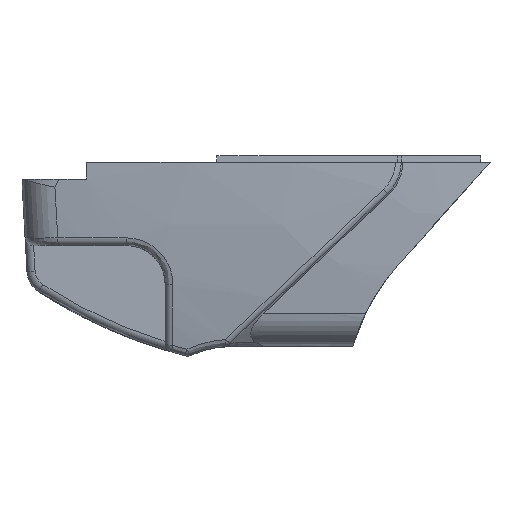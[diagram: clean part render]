
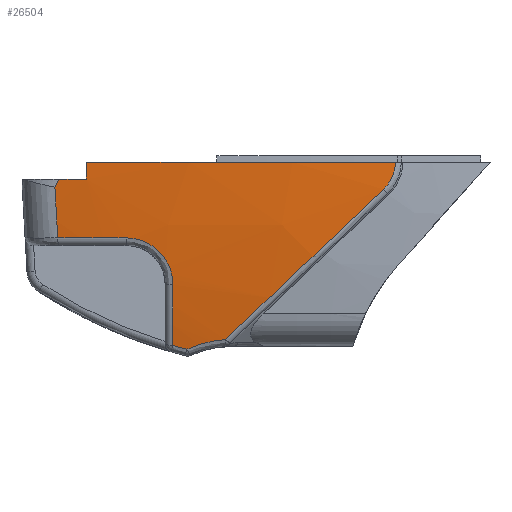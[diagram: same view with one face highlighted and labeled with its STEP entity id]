
A CAD part, left-side view. The second image highlights one B-rep face of the part: STEP entity #26504.
In plain terms, the highlighted free-form (B-spline) face has degree [3, 3] with [4, 4] control points.
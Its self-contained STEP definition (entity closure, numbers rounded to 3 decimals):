
#5399=CARTESIAN_POINT('',(-60.479,12.15,-32.2));
#5400=CARTESIAN_POINT('',(-60.479,12.15,
-32.644));
#5401=CARTESIAN_POINT('',(-60.476,12.15,
-33.533));
#5402=CARTESIAN_POINT('',(-60.464,12.15,
-34.867));
#5403=CARTESIAN_POINT('',(-60.451,12.15,-35.756));
#5404=CARTESIAN_POINT('',(-60.443,12.15,-36.2));
#5518=CARTESIAN_POINT('',(-61.742,-61.166,
-32.2));
#5523=CARTESIAN_POINT('',(304.183,-30.798,
-32.2));
#5524=DIRECTION('',(0.,0.,-1.));
#5525=DIRECTION('',(-0.997,-0.083,0.));
#5526=AXIS2_PLACEMENT_3D('',#5523,#5524,#5525);
#9055=CARTESIAN_POINT('',(-58.332,-11.703,
-76.557));
#9106=CARTESIAN_POINT('',(-60.781,2.682,
-50.151));
#9107=CARTESIAN_POINT('',(-60.848,1.951,
-50.152));
#9108=CARTESIAN_POINT('',(-60.965,0.519,
-50.292));
#9109=CARTESIAN_POINT('',(-61.089,-1.572,
-50.928));
#9110=CARTESIAN_POINT('',(-61.154,-3.499,
-51.958));
#9111=CARTESIAN_POINT('',(-61.156,-5.186,
-53.347));
#9112=CARTESIAN_POINT('',(-61.094,-6.575,
-55.041));
#9113=CARTESIAN_POINT('',(-60.966,-7.601,
-56.973));
#9114=CARTESIAN_POINT('',(-60.777,-8.239,
-59.077));
#9115=CARTESIAN_POINT('',(-60.616,-8.378,
-60.511));
#9116=CARTESIAN_POINT('',(-60.526,-8.378,
-61.243));
#9713=CARTESIAN_POINT('',(304.183,-30.798,
-36.2));
#9714=DIRECTION('',(0.,0.,-1.));
#9715=DIRECTION('',(-0.993,0.117,0.));
#9716=AXIS2_PLACEMENT_3D('',#9713,#9714,#9715);
#9746=CARTESIAN_POINT('',(-61.742,-61.166,
-32.2));
#9747=CARTESIAN_POINT('',(-61.743,-61.14,
-33.403));
#9748=CARTESIAN_POINT('',(-61.767,-60.605,
-35.797));
#9749=CARTESIAN_POINT('',(-61.833,-59.19,
-37.8));
#9750=CARTESIAN_POINT('',(-61.876,-58.318,
-38.625));
#9755=CARTESIAN_POINT('',(-61.876,-58.318,
-38.625));
#9756=CARTESIAN_POINT('',(-62.08,-54.14,
-42.596));
#9757=CARTESIAN_POINT('',(-62.149,-45.766,
-50.538));
#9758=CARTESIAN_POINT('',(-61.229,-33.249,
-62.43));
#9759=CARTESIAN_POINT('',(-59.938,-24.946,
-70.31));
#9760=CARTESIAN_POINT('',(-59.124,-20.821,
-74.234));
#9765=CARTESIAN_POINT('',(-58.332,-11.703,
-76.557));
#9766=CARTESIAN_POINT('',(-58.328,-10.591,
-76.268));
#9767=CARTESIAN_POINT('',(-58.321,-9.482,
-75.963));
#9768=CARTESIAN_POINT('',(-58.313,-8.379,
-75.641));
#9773=CARTESIAN_POINT('',(177.622,-8.379,
-31.999));
#9774=DIRECTION('',(0.,1.,0.));
#9775=DIRECTION('',(-0.983,0.,-0.182));
#9776=AXIS2_PLACEMENT_3D('',#9773,#9774,#9775);
#9781=CARTESIAN_POINT('',(304.183,-30.798,
-50.151));
#9782=DIRECTION('',(0.,0.,-1.));
#9783=DIRECTION('',(-0.996,0.091,0.));
#9784=AXIS2_PLACEMENT_3D('',#9781,#9782,#9783);
#9789=CARTESIAN_POINT('',(178.784,19.852,-33.885));
#9790=DIRECTION('',(0.,0.998,-0.057));
#9791=DIRECTION('',(-0.998,-0.004,-0.068));
#9792=AXIS2_PLACEMENT_3D('',#9789,#9790,#9791);
#9797=CARTESIAN_POINT('',(-59.444,19.614,
-38.115));
#9798=CARTESIAN_POINT('',(-59.464,19.509,
-37.903));
#9799=CARTESIAN_POINT('',(-59.503,19.301,
-37.478));
#9800=CARTESIAN_POINT('',(-59.56,18.991,
-36.839));
#9801=CARTESIAN_POINT('',(-59.596,18.786,
-36.413));
#9802=CARTESIAN_POINT('',(-59.614,18.684,
-36.2));
#9898=CARTESIAN_POINT('',(-58.332,-11.703,
-76.557));
#9899=CARTESIAN_POINT('',(-58.463,-12.662,
-76.127));
#9900=CARTESIAN_POINT('',(-58.697,-14.617,
-75.381));
#9901=CARTESIAN_POINT('',(-58.963,-17.683,
-74.6));
#9902=CARTESIAN_POINT('',(-59.08,-19.766,
-74.317));
#9903=CARTESIAN_POINT('',(-59.124,-20.821,
-74.234));
#18519=CARTESIAN_POINT('',(-60.479,12.15,-32.2));
#18521=VERTEX_POINT('',#18519);
#18547=VERTEX_POINT('',#5518);
#18685=CARTESIAN_POINT('',(-59.124,-20.821,
-74.234));
#18686=VERTEX_POINT('',#18685);
#18687=VERTEX_POINT('',#9055);
#18688=CARTESIAN_POINT('',(-58.313,-8.379,
-75.641));
#18689=VERTEX_POINT('',#18688);
#18694=CARTESIAN_POINT('',(-60.526,-8.378,
-61.243));
#18695=VERTEX_POINT('',#18694);
#18788=VERTEX_POINT('',#5404);
#18834=CARTESIAN_POINT('',(-59.614,18.684,-36.2));
#18835=VERTEX_POINT('',#18834);
#18844=VERTEX_POINT('',#9750);
#18845=VERTEX_POINT('',#9106);
#18846=CARTESIAN_POINT('',(-58.923,18.938,
-50.151));
#18847=VERTEX_POINT('',#18846);
#18848=CARTESIAN_POINT('',(-59.444,19.618,
-38.115));
#18849=VERTEX_POINT('',#18848);
#26467=CARTESIAN_POINT('',(-61.604,-62.78,
-31.308));
#26468=CARTESIAN_POINT('',(-61.648,-62.784,
-46.799));
#26469=CARTESIAN_POINT('',(-60.205,-62.658,
-62.222));
#26470=CARTESIAN_POINT('',(-57.288,-62.403,
-77.433));
#26471=CARTESIAN_POINT('',(-64.054,-34.75,
-31.308));
#26472=CARTESIAN_POINT('',(-64.099,-34.751,
-46.799));
#26473=CARTESIAN_POINT('',(-62.646,-34.735,
-62.222));
#26474=CARTESIAN_POINT('',(-59.71,-34.704,
-77.433));
#26475=CARTESIAN_POINT('',(-63.281,-6.624,
-31.308));
#26476=CARTESIAN_POINT('',(-63.326,-6.621,
-46.799));
#26477=CARTESIAN_POINT('',(-61.876,-6.717,
-62.222));
#26478=CARTESIAN_POINT('',(-58.946,-6.91,
-77.433));
#26479=CARTESIAN_POINT('',(-59.295,21.228,
-31.308));
#26480=CARTESIAN_POINT('',(-59.339,21.235,
-46.799));
#26481=CARTESIAN_POINT('',(-57.905,21.029,
-62.222));
#26482=CARTESIAN_POINT('',(-55.007,20.614,
-77.433));
#26483=(BOUNDED_SURFACE()B_SPLINE_SURFACE(3,3,((#26467,#26468,#26469,#26470),(
#26471,#26472,#26473,#26474),(#26475,#26476,#26477,#26478),(#26479,#26480,
#26481,#26482)),.UNSPECIFIED.,.F.,.F.,.F.)B_SPLINE_SURFACE_WITH_KNOTS((4,4),(4,
4),(0.,1.),(0.,1.),.UNSPECIFIED.)GEOMETRIC_REPRESENTATION_ITEM()RATIONAL_B_SPLINE_SURFACE(((1.006,1.003,1.003,
1.006),(1.001,0.998,0.998,
1.001),(1.001,0.998,0.998,
1.001),(1.006,1.003,1.003,
1.006)))REPRESENTATION_ITEM('')SURFACE());
#26485=ORIENTED_EDGE('',*,*,#26484,.T.);
#26487=ORIENTED_EDGE('',*,*,#26486,.T.);
#26489=ORIENTED_EDGE('',*,*,#26488,.F.);
#26490=ORIENTED_EDGE('',*,*,#25883,.T.);
#26491=ORIENTED_EDGE('',*,*,#25911,.T.);
#26492=ORIENTED_EDGE('',*,*,#25962,.F.);
#26494=ORIENTED_EDGE('',*,*,#26493,.T.);
#26496=ORIENTED_EDGE('',*,*,#26495,.T.);
#26498=ORIENTED_EDGE('',*,*,#26497,.T.);
#26499=ORIENTED_EDGE('',*,*,#26454,.F.);
#26500=ORIENTED_EDGE('',*,*,#23157,.F.);
#26501=ORIENTED_EDGE('',*,*,#23210,.F.);
#26502=EDGE_LOOP('',(#26485,#26487,#26489,#26490,#26491,#26492,#26494,#26496,
#26498,#26499,#26500,#26501));
#26503=FACE_OUTER_BOUND('',#26502,.F.);
#5405=B_SPLINE_CURVE_WITH_KNOTS('',3,(#5399,#5400,#5401,#5402,#5403,#5404),
.UNSPECIFIED.,.F.,.F.,(4,1,1,4),(0.,0.333,0.667,1.),
.UNSPECIFIED.);
#5527=CIRCLE('',#5526,367.183);
#9117=B_SPLINE_CURVE_WITH_KNOTS('',3,(#9106,#9107,#9108,#9109,#9110,#9111,#9112,
#9113,#9114,#9115,#9116),.UNSPECIFIED.,.F.,.F.,(4,1,1,1,1,1,1,1,4),(0.,
0.125,0.25,0.375,0.5,0.625,0.75,0.875,1.),.UNSPECIFIED.);
#9717=CIRCLE('',#9716,367.146);
#9751=B_SPLINE_CURVE_WITH_KNOTS('',3,(#9746,#9747,#9748,#9749,#9750),
.UNSPECIFIED.,.F.,.F.,(4,1,4),(0.,0.5,1.),.UNSPECIFIED.);
#9761=B_SPLINE_CURVE_WITH_KNOTS('',3,(#9755,#9756,#9757,#9758,#9759,#9760),
.UNSPECIFIED.,.F.,.F.,(4,1,1,4),(0.,0.333,0.667,1.),
.UNSPECIFIED.);
#9769=B_SPLINE_CURVE_WITH_KNOTS('',3,(#9765,#9766,#9767,#9768),.UNSPECIFIED.,
.F.,.F.,(4,4),(0.,1.),.UNSPECIFIED.);
#9777=CIRCLE('',#9776,239.937);
#9785=CIRCLE('',#9784,366.497);
#9793=CIRCLE('',#9792,238.265);
#9803=B_SPLINE_CURVE_WITH_KNOTS('',3,(#9797,#9798,#9799,#9800,#9801,#9802),
.UNSPECIFIED.,.F.,.F.,(4,1,1,4),(0.,0.333,0.667,1.),
.UNSPECIFIED.);
#9904=B_SPLINE_CURVE_WITH_KNOTS('',3,(#9898,#9899,#9900,#9901,#9902,#9903),
.UNSPECIFIED.,.F.,.F.,(4,1,1,4),(0.,0.333,0.667,1.),
.UNSPECIFIED.);
#23157=EDGE_CURVE('',#18521,#18788,#5405,.T.);
#23210=EDGE_CURVE('',#18547,#18521,#5527,.T.);
#25883=EDGE_CURVE('',#18687,#18689,#9769,.T.);
#25911=EDGE_CURVE('',#18689,#18695,#9777,.T.);
#25962=EDGE_CURVE('',#18845,#18695,#9117,.T.);
#26454=EDGE_CURVE('',#18788,#18835,#9717,.T.);
#26484=EDGE_CURVE('',#18547,#18844,#9751,.T.);
#26486=EDGE_CURVE('',#18844,#18686,#9761,.T.);
#26488=EDGE_CURVE('',#18687,#18686,#9904,.T.);
#26493=EDGE_CURVE('',#18845,#18847,#9785,.T.);
#26495=EDGE_CURVE('',#18847,#18849,#9793,.T.);
#26497=EDGE_CURVE('',#18849,#18835,#9803,.T.);
#26504=ADVANCED_FACE('',(#26503),#26483,.T.);
